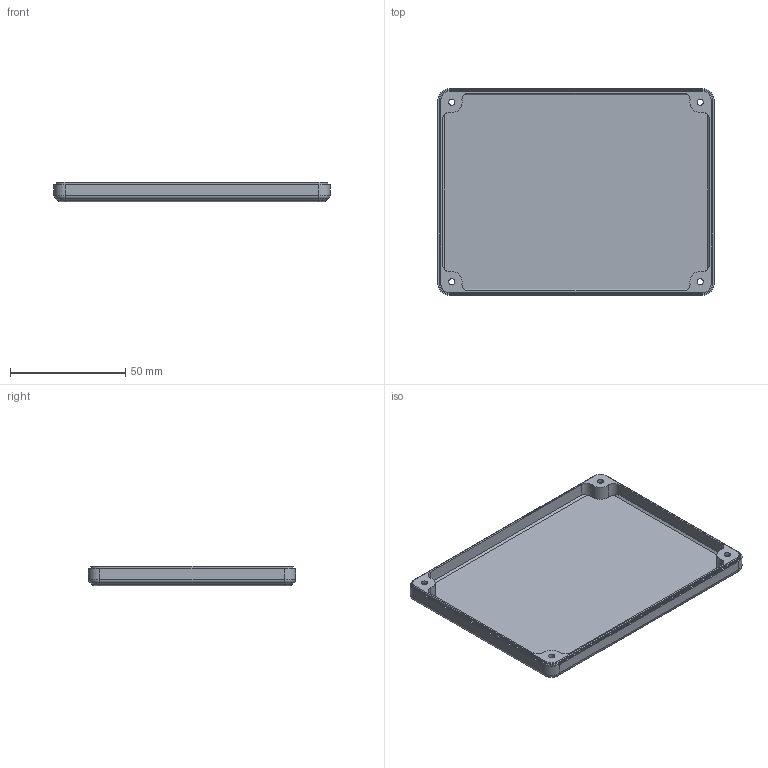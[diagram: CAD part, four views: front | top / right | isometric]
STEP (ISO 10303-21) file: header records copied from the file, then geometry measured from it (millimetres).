
FILE_DESCRIPTION((''),'2;1');
FILE_NAME('00_BOTTOM_COVER','2024-10-14T09:37:36',('ts'),(''),'CREO PARAMETRIC BY PTC INC, 2020154','CREO PARAMETRIC BY PTC INC, 2020154','');
FILE_SCHEMA(('AUTOMOTIVE_DESIGN { 1 0 10303 214 1 1 1 1 }'));
Length unit declared in the file: millimetre
Products named in the file (1): 00_BOTTOM_COVER
Bounding box: 120 x 90 x 8.44 mm (x, y, z)
Volume: 26800.2 mm3; surface area: 27165.1 mm2
Topology: 1 solids, 1 shells, 101 faces, 244 edges, 152 vertices
Faces by surface type: cylinder 48, plane 37, cone 8, torus 8
Entity records: 3033 total; most frequent: DIRECTION 550, CARTESIAN_POINT 523, ORIENTED_EDGE 488, EDGE_CURVE 244, AXIS2_PLACEMENT_3D 213, VERTEX_POINT 152, VECTOR 124, LINE 124
